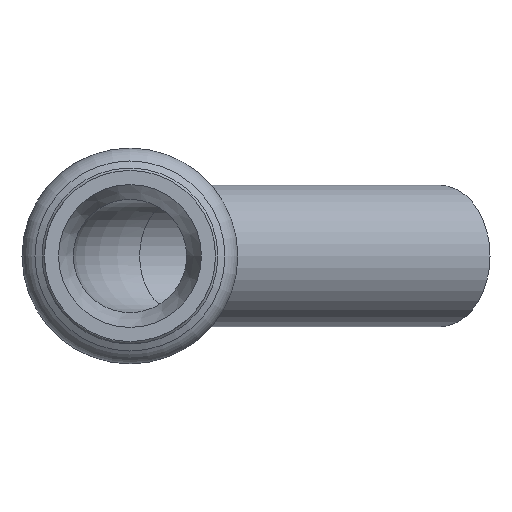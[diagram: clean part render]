
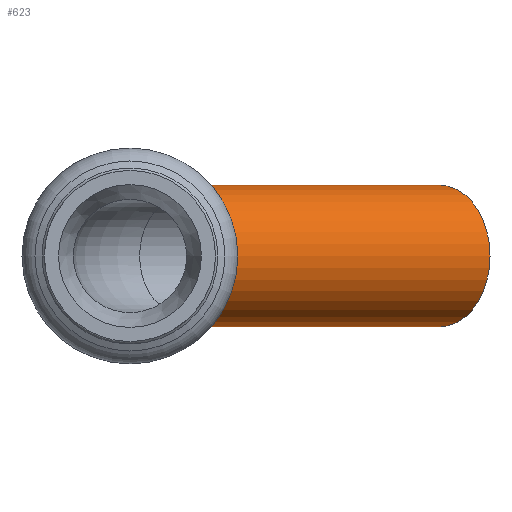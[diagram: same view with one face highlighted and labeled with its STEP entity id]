
A CAD part, left-side view. The second image highlights one B-rep face of the part: STEP entity #623.
In plain terms, the highlighted cylindrical face has radius 7.5 mm (diameter 15 mm), a full revolution.
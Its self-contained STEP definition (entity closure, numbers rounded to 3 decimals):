
#596=CARTESIAN_POINT('',(12.728,-5.272,0.0));
#597=DIRECTION('',(0.707,-0.707,0.0));
#598=DIRECTION('',(0.0,0.0,1.0));
#599=AXIS2_PLACEMENT_3D('',#596,#597,#598);
#600=CYLINDRICAL_SURFACE('',#599,7.5);
#601=CARTESIAN_POINT('',(40.336,-32.88,-7.5));
#602=VERTEX_POINT('',#601);
#603=CARTESIAN_POINT('',(40.336,-32.88,0.0));
#604=DIRECTION('',(-0.707,0.707,0.0));
#605=DIRECTION('',(0.0,0.0,1.0));
#606=AXIS2_PLACEMENT_3D('',#603,#604,#605);
#607=CIRCLE('',#606,7.5);
#608=EDGE_CURVE('',#602,#602,#607,.T.);
#609=ORIENTED_EDGE('',*,*,#608,.T.);
#610=EDGE_LOOP('',(#609));
#611=FACE_OUTER_BOUND('',#610,.T.);
#612=CARTESIAN_POINT('',(12.728,-5.272,-7.5));
#613=VERTEX_POINT('',#612);
#614=CARTESIAN_POINT('',(12.728,-5.272,0.0));
#615=DIRECTION('',(-0.707,0.707,0.0));
#616=DIRECTION('',(0.0,0.0,1.0));
#617=AXIS2_PLACEMENT_3D('',#614,#615,#616);
#618=CIRCLE('',#617,7.5);
#619=EDGE_CURVE('',#613,#613,#618,.T.);
#620=ORIENTED_EDGE('',*,*,#619,.F.);
#621=EDGE_LOOP('',(#620));
#622=FACE_BOUND('',#621,.T.);
#623=ADVANCED_FACE('',(#611,#622),#600,.T.);
